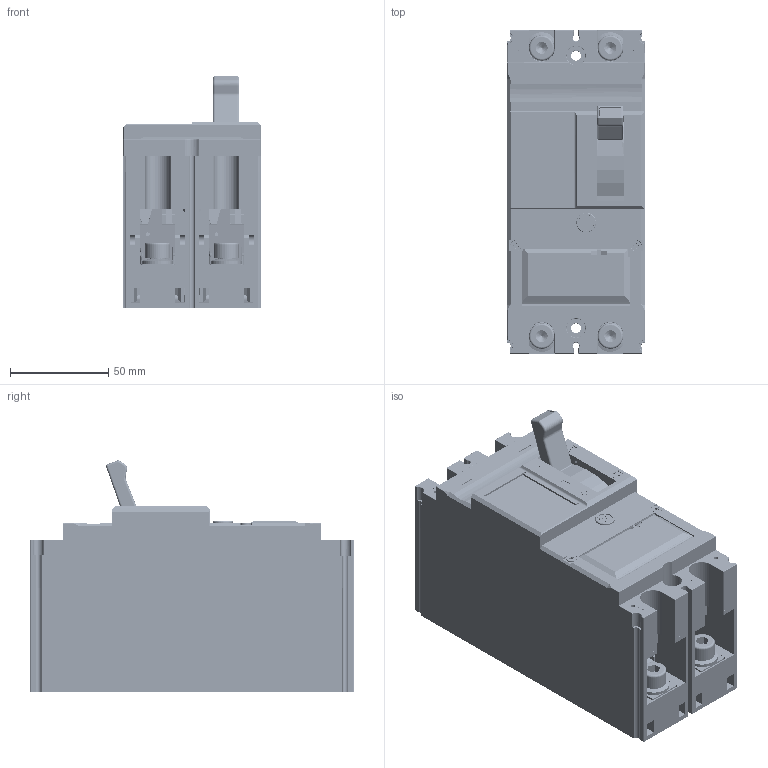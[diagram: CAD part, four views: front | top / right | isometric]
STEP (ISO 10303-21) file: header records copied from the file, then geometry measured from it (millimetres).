
FILE_DESCRIPTION (( 'STEP AP214' ), '1' );
FILE_NAME ('MNX250L_M_H_2P ﾈﾇﾌ.STEP', '2024-12-04T10:53:21', ( '' ), ( '' ), 'SwSTEP 2.0', 'SolidWorks 2022', '' );
FILE_SCHEMA (( 'AUTOMOTIVE_DESIGN' ));
Length unit declared in the file: millimetre
Products named in the file (1): MNX250L_M_H_2P ИЗМ
Bounding box: 70 x 165 x 118.07 mm (x, y, z)
Volume: 357509.6 mm3; surface area: 342274.2 mm2
Topology: 114 solids, 114 shells, 9244 faces, 24801 edges, 15853 vertices
Faces by surface type: plane 5352, cylinder 2626, cone 574, bspline 417, torus 205, sphere 70
Entity records: 330851 total; most frequent: CARTESIAN_POINT 100731, ORIENTED_EDGE 49414, DIRECTION 45748, EDGE_CURVE 24707, LINE 16656, VECTOR 16656, VERTEX_POINT 15843, AXIS2_PLACEMENT_3D 14546
